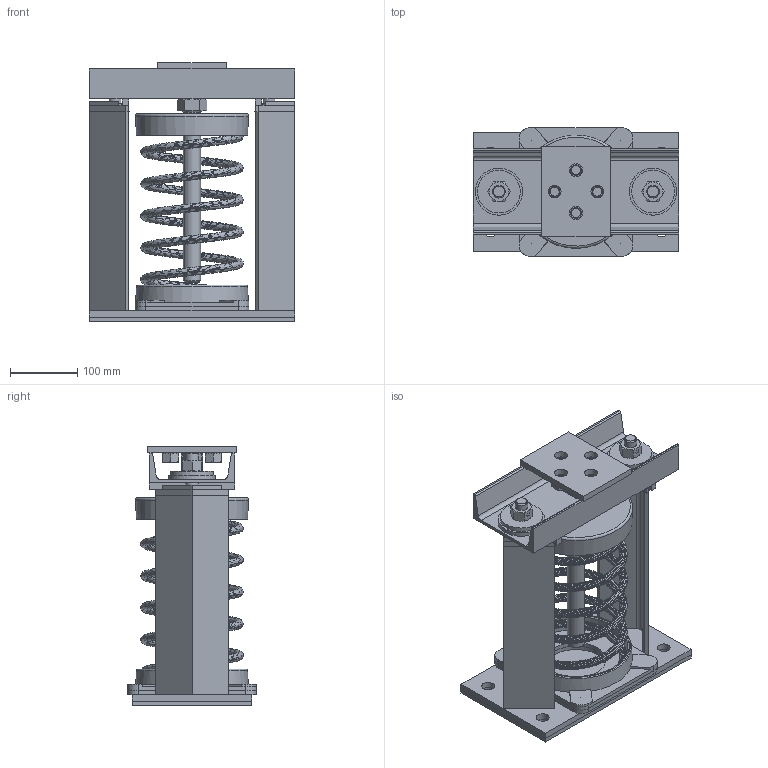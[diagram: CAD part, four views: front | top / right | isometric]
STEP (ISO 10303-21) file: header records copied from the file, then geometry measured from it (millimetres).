
FILE_DESCRIPTION(/* description */ (''),/* implementation_level */ '2;1');
FILE_NAME(/* name */ 'X:\STEP\SLR 100 SERIES\SLR-178.stp',/* time_stamp */ '2020-04-24T17:10:23-04:00',/* author */ ('Raj Ramoutar'),/* organization */ (''),/* preprocessor_version */ 'ST-DEVELOPER v17.2',/* originating_system */ 'Autodesk Inventor 2019',/* authorisation */ '');
FILE_SCHEMA (('AUTOMOTIVE_DESIGN { 1 0 10303 214 3 1 1 }'));
Length unit declared in the file: inch
Products named in the file (1): SLR-178 PER A-30438-1_Shrinkwrap_1
Bounding box: 304.93 x 190.5 x 384.18 mm (x, y, z)
Volume: 3288177.8 mm3; surface area: 832165.5 mm2
Topology: 1 solids, 7 shells, 568 faces, 1389 edges, 860 vertices
Faces by surface type: plane 337, cone 126, cylinder 77, bspline 22, torus 6
Full cylindrical faces by diameter (mm): 9.525 x2, 11.112 x1, 12.7 x4, 13.386 x4, 15.875 x4, 19.05 x16, 19.507 x2, 20.637 x4, 25.4 x2, 28.575 x2, 38.1 x2, 44.45 x2, 63.5 x2, 69.85 x2, 88.9 x2, 154.781 x1, 155.575 x1
Entity records: 27411 total; most frequent: CARTESIAN_POINT 13906, ORIENTED_EDGE 2768, DIRECTION 2609, EDGE_CURVE 1384, AXIS2_PLACEMENT_3D 954, VERTEX_POINT 860, LINE 701, VECTOR 701
